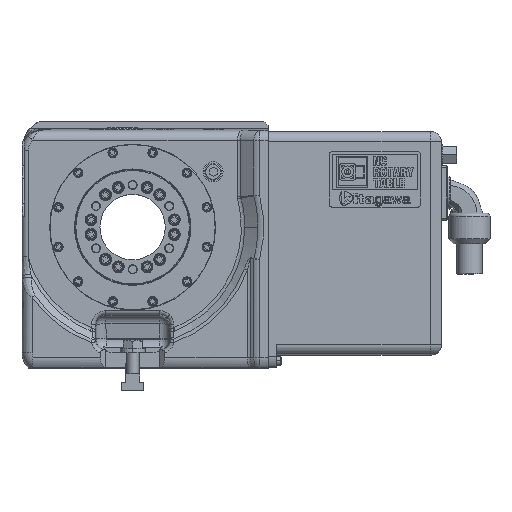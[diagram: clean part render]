
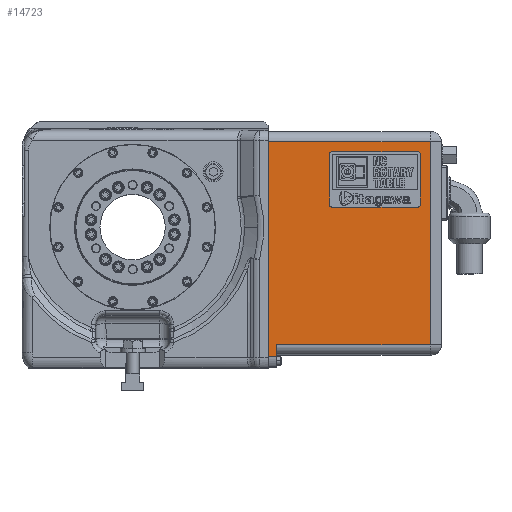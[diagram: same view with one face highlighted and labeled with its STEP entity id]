
A CAD part, top view. The second image highlights one B-rep face of the part: STEP entity #14723.
In plain terms, the highlighted planar face has unit normal (0, 0, 1).
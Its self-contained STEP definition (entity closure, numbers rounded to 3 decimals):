
#143 = EDGE_CURVE ( 'NONE', #93366, #7999, #12751, .T. ) ;
#589 = CARTESIAN_POINT ( 'NONE',  ( 8., 224., 0. ) ) ;
#3955 = VECTOR ( 'NONE', #71110, 1000. ) ;
#7999 = VERTEX_POINT ( 'NONE', #16129 ) ;
#8878 = VECTOR ( 'NONE', #29073, 1000. ) ;
#9637 = VERTEX_POINT ( 'NONE', #108984 ) ;
#12751 = LINE ( 'NONE', #127402, #8878 ) ;
#14489 = DIRECTION ( 'NONE',  ( 0., -1., 0. ) ) ;
#14723 = ADVANCED_FACE ( 'NONE', ( #131984 ), #151455, .F. ) ;
#16129 = CARTESIAN_POINT ( 'NONE',  ( 0., 10., 0. ) ) ;
#19834 = CARTESIAN_POINT ( 'NONE',  ( 8., 0., 0. ) ) ;
#20286 = CARTESIAN_POINT ( 'NONE',  ( 161., 22., 0. ) ) ;
#21480 = ORIENTED_EDGE ( 'NONE', *, *, #143, .F. ) ;
#21951 = AXIS2_PLACEMENT_3D ( 'NONE', #41823, #152492, #78991 ) ;
#26138 = LINE ( 'NONE', #88207, #120344 ) ;
#29073 = DIRECTION ( 'NONE',  ( -1., 0., 0. ) ) ;
#32442 = ORIENTED_EDGE ( 'NONE', *, *, #53894, .T. ) ;
#32880 = VERTEX_POINT ( 'NONE', #20286 ) ;
#37099 = VERTEX_POINT ( 'NONE', #122782 ) ;
#41823 = CARTESIAN_POINT ( 'NONE',  ( 8., 0., 0. ) ) ;
#53894 = EDGE_CURVE ( 'NONE', #37099, #7999, #26138, .T. ) ;
#71110 = DIRECTION ( 'NONE',  ( 1., 0., 0. ) ) ;
#78991 = DIRECTION ( 'NONE',  ( 0., 1., 0. ) ) ;
#84531 = CARTESIAN_POINT ( 'NONE',  ( 8., 10., 0. ) ) ;
#87427 = CARTESIAN_POINT ( 'NONE',  ( 161., 224., 0. ) ) ;
#87938 = VECTOR ( 'NONE', #105840, 1000. ) ;
#88207 = CARTESIAN_POINT ( 'NONE',  ( 0., 0., 0. ) ) ;
#93366 = VERTEX_POINT ( 'NONE', #84531 ) ;
#95993 = ORIENTED_EDGE ( 'NONE', *, *, #117602, .F. ) ;
#97647 = EDGE_LOOP ( 'NONE', ( #132532, #152183, #95993, #148043, #32442, #21480 ) ) ;
#99602 = LINE ( 'NONE', #128527, #128398 ) ;
#105840 = DIRECTION ( 'NONE',  ( 0., -1., 0. ) ) ;
#108063 = CARTESIAN_POINT ( 'NONE',  ( 8., 22., 0. ) ) ;
#108393 = EDGE_CURVE ( 'NONE', #9637, #32880, #134736, .T. ) ;
#108984 = CARTESIAN_POINT ( 'NONE',  ( 8., 22., 0. ) ) ;
#111324 = DIRECTION ( 'NONE',  ( -1., 0., 0. ) ) ;
#117602 = EDGE_CURVE ( 'NONE', #157626, #32880, #99602, .T. ) ;
#117637 = VECTOR ( 'NONE', #111324, 1000. ) ;
#118037 = EDGE_CURVE ( 'NONE', #9637, #93366, #153216, .T. ) ;
#120344 = VECTOR ( 'NONE', #14489, 1000. ) ;
#122782 = CARTESIAN_POINT ( 'NONE',  ( 0., 224., 0. ) ) ;
#125946 = EDGE_CURVE ( 'NONE', #157626, #37099, #154207, .T. ) ;
#127402 = CARTESIAN_POINT ( 'NONE',  ( 387.403, 10., 0. ) ) ;
#128398 = VECTOR ( 'NONE', #140892, 1000. ) ;
#128527 = CARTESIAN_POINT ( 'NONE',  ( 161., 234., 0. ) ) ;
#131984 = FACE_OUTER_BOUND ( 'NONE', #97647, .T. ) ;
#132532 = ORIENTED_EDGE ( 'NONE', *, *, #118037, .F. ) ;
#134736 = LINE ( 'NONE', #108063, #3955 ) ;
#140892 = DIRECTION ( 'NONE',  ( 0., -1., 0. ) ) ;
#148043 = ORIENTED_EDGE ( 'NONE', *, *, #125946, .T. ) ;
#151455 = PLANE ( 'NONE',  #21951 ) ;
#152183 = ORIENTED_EDGE ( 'NONE', *, *, #108393, .T. ) ;
#152492 = DIRECTION ( 'NONE',  ( 0., 0., -1. ) ) ;
#153216 = LINE ( 'NONE', #19834, #87938 ) ;
#154207 = LINE ( 'NONE', #589, #117637 ) ;
#157626 = VERTEX_POINT ( 'NONE', #87427 ) ;
